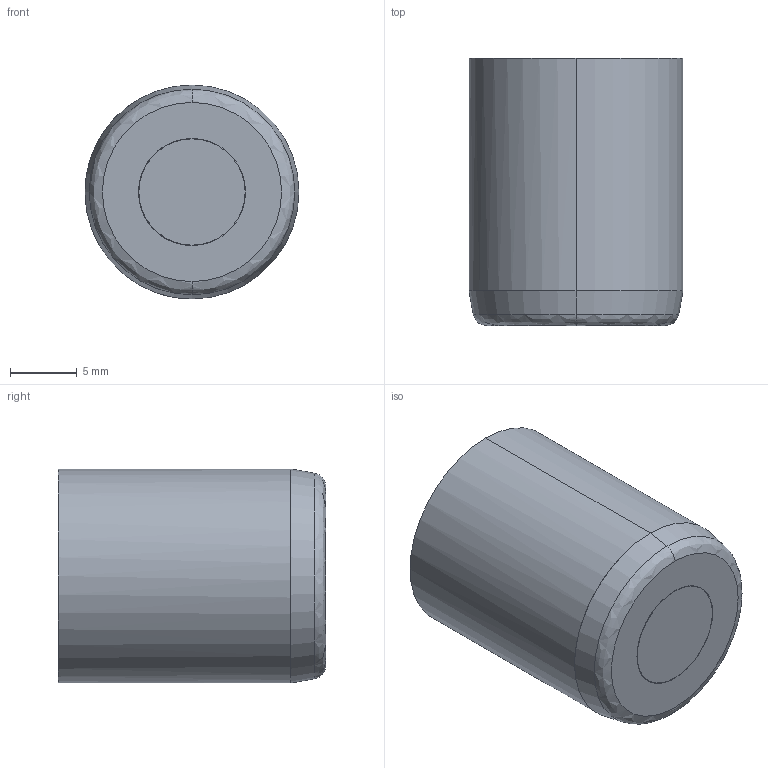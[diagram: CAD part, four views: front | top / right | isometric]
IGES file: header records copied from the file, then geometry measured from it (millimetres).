
Start section: START RECORD GO HERE.
Global section: file name: fa168712-21.igs; native system: DASSAULT SYSTEMES CATIA V5 R20 - www.3ds.com; preprocessor: CATIA Version 5 Release 20 ; author: Utente; organization: NB04-ASUS; date: 20201108.083505; units: millimetre
Bounding box: 16 x 20 x 16 mm (x, y, z)
Surface area: 2705.5 mm2 (no closed solid volume)
Topology: 0 solids, 0 shells, 424 faces, 2126 edges, 2124 vertices
Faces by surface type: revolution 199, plane 144, bspline 81
